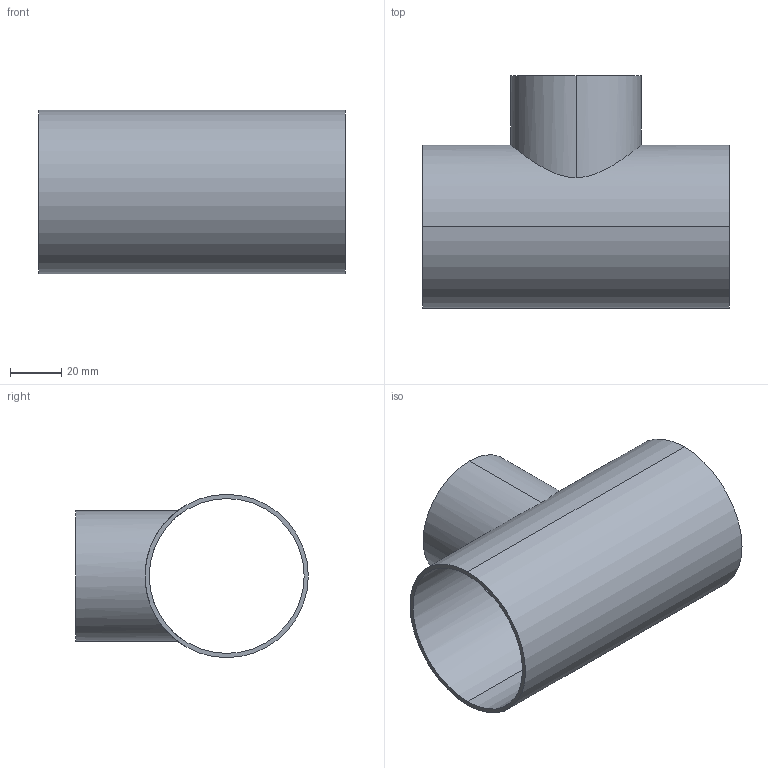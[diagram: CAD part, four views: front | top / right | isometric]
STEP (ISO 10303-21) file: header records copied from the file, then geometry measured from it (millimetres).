
FILE_DESCRIPTION (( 'STEP AP203' ), '1' );
FILE_NAME ('E7RWWW2.5X2.0.STEP', '2018-04-30T18:48:24', ( 'vneprd' ), ( 'Microsoft' ), 'SwSTEP 2.0', 'SolidWorks 2014', '' );
FILE_SCHEMA (( 'CONFIG_CONTROL_DESIGN' ));
Length unit declared in the file: inch
Products named in the file (1): E7RWWW2.5X2.0
Bounding box: 119.05 x 90.47 x 63.5 mm (x, y, z)
Volume: 43255.6 mm3; surface area: 53291.1 mm2
Topology: 1 solids, 1 shells, 11 faces, 24 edges, 16 vertices
Faces by surface type: cylinder 8, plane 3
Entity records: 657 total; most frequent: CARTESIAN_POINT 320, DIRECTION 56, ORIENTED_EDGE 48, EDGE_CURVE 24, AXIS2_PLACEMENT_3D 24, VERTEX_POINT 16, EDGE_LOOP 16, CIRCLE 12
